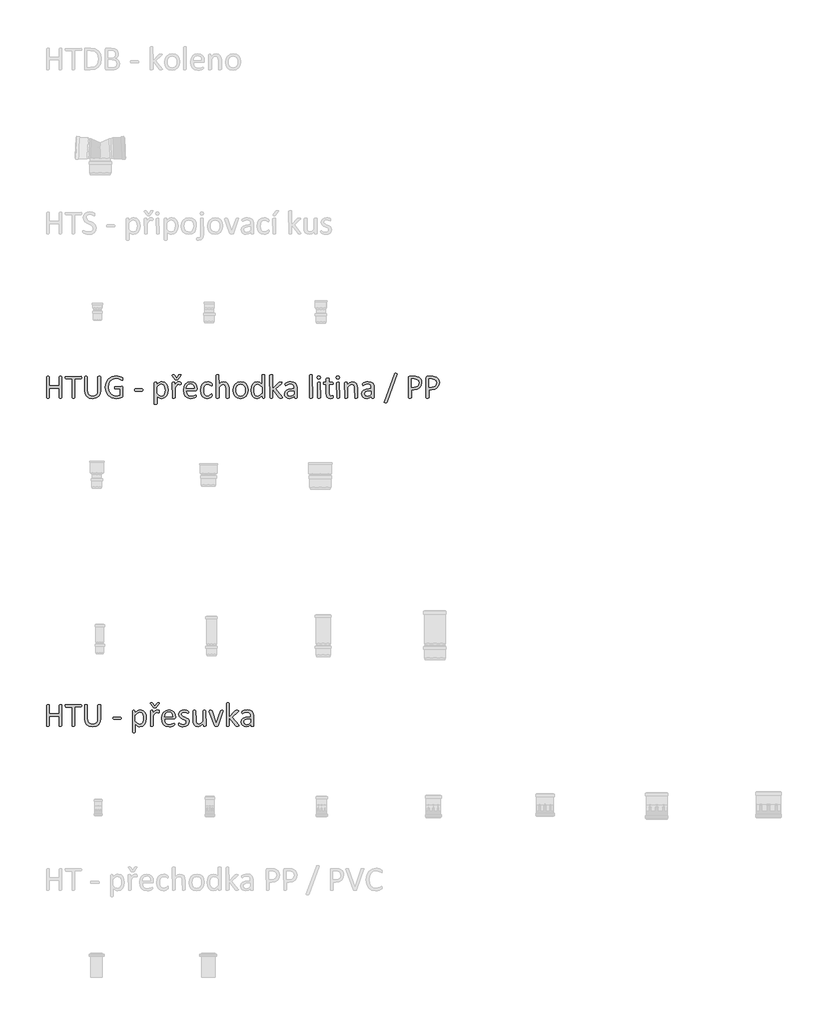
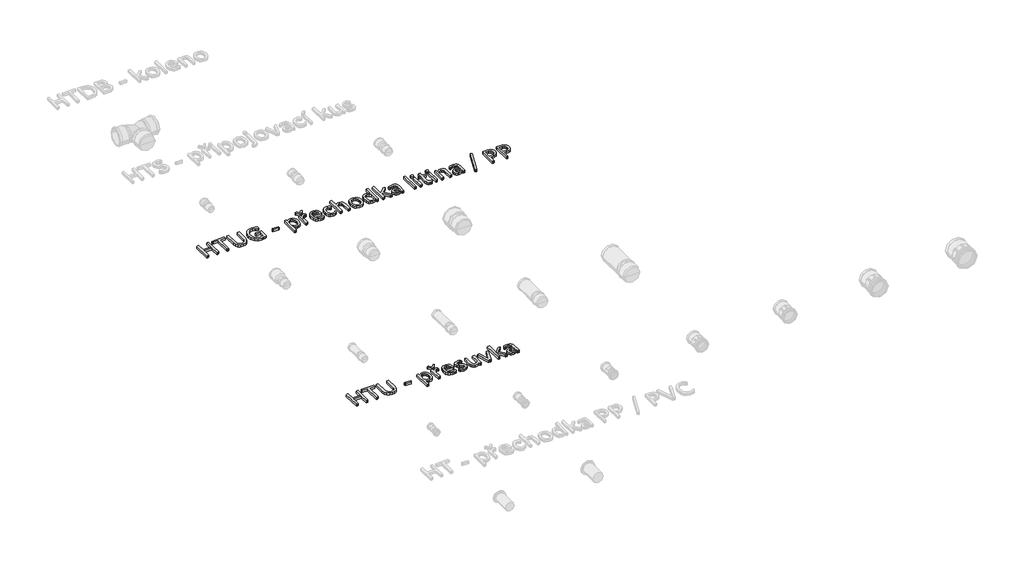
# One storey, part 3 of 26: 2 proxies.
"""IFC4 building model written with IfcOpenShell, lengths in millimetres."""

from ifc_helpers import new_model, si_unit, origin, origin_with_axes, place, context, project, spatial, polyline, outline, extrude, element, save

model = new_model("IFC4")

# Units and contexts
model_context = context("Model", 3, world=origin())
ifc_project = project(units=[si_unit("LENGTHUNIT", "METRE", prefix="MILLI")], contexts=[model_context])

# Site, building, storey
site = spatial("IfcSite", under=ifc_project)
building = spatial("IfcBuilding", under=site)
storey = spatial("IfcBuildingStorey", under=building, Name="Podlaží 1", Elevation=0.0)

# Proxies
placement = place(None, origin())
element("IfcBuildingElementProxy", 1, Name="120mm Arial", ObjectType="120mm Arial", at=placement, inside=storey, context=model_context, shape_type="SweptSolid", body=[
    extrude(outline(polyline([(-20465.0657483, -5771.9493003), (-20469.2817655, -5774.6815689), (-20473.1358927, -5774.9167974), (-20477.1166815, -5774.6815689), (-20479.5775327, -5774.1387341), (-20481.2784151, -5719.3305111), (-20534.5486061, -5719.3305111), (-20534.5486061, -5771.9854893), (-20538.7465288, -5774.6815689), (-20542.6549395, -5774.9167974), (-20546.5271613, -5774.6815689), (-20549.0603905, -5774.1206396), (-20550.7612729, -5657.4473409), (-20546.5271613, -5654.7150723), (-20542.6549395, -5654.4798438), (-20538.7465288, -5654.7150723), (-20536.2494886, -5655.2760016), (-20534.5486061, -5705.4339396), (-20481.2784151, -5705.4339396), (-20481.2784151, -5657.4473409), (-20477.1166815, -5654.7150723), (-20473.1358927, -5654.4798438), (-20469.2817655, -5654.7150723), (-20466.7666308, -5655.2760016), (-20465.0657483, -5771.9493003)])), origin_with_axes(), (0.0, 0.0, 1.0), 15.0),
    extrude(outline(polyline([(-20356.2092711, -5661.5366966), (-20356.390216, -5664.6670441), (-20356.9873343, -5666.8021944), (-20393.2667952, -5668.3764154), (-20393.2667952, -5771.9493003), (-20397.4647179, -5774.6815689), (-20401.3731287, -5774.9167974), (-20405.2453504, -5774.6815689), (-20407.7785796, -5774.1206396), (-20409.4794621, -5668.3764154), (-20443.3885442, -5668.3764154), (-20446.3017578, -5664.6670441), (-20446.5369862, -5661.5366966), (-20446.3017578, -5658.3339711), (-20445.686545, -5656.0902538), (-20359.3939021, -5654.4798438), (-20357.0054288, -5656.0902538), (-20356.390216, -5658.3339711), (-20356.2092711, -5661.5366966)])), origin_with_axes(), (0.0, 0.0, 1.0), 15.0),
    extrude(outline(polyline([(-20249.6688891, -5730.9833654), (-20252.8716146, -5750.5616081), (-20261.9912397, -5765.127676), (-20276.4306461, -5774.1568286), (-20295.8098494, -5777.2328926), (-20313.8681546, -5774.355868), (-20327.8551986, -5765.8333613), (-20336.8481623, -5751.7196558), (-20339.9966043, -5732.177602), (-20339.9966043, -5657.4473409), (-20338.2957218, -5655.2760016), (-20335.8348706, -5654.7150723), (-20331.8540819, -5654.4798438), (-20327.9637656, -5654.7150723), (-20325.4486309, -5655.2760016), (-20323.7839374, -5730.0786407), (-20321.7754486, -5744.662803), (-20315.9671159, -5755.0309482), (-20306.8113019, -5761.2554542), (-20294.7965577, -5763.3363211), (-20282.5646796, -5761.2916432), (-20273.5174325, -5755.1576097), (-20267.8538558, -5745.0427874), (-20265.8815559, -5730.9109874), (-20265.8815559, -5657.4473409), (-20264.1806735, -5655.2760016), (-20261.6655388, -5654.7150723), (-20257.7390335, -5654.4798438), (-20253.8849063, -5654.7150723), (-20251.4240551, -5655.2760016), (-20250.103157, -5656.1626318), (-20249.6688891, -5730.9833654)])), origin_with_axes(), (0.0, 0.0, 1.0), 15.0),
    extrude(outline(polyline([(-20126.9158403, -5670.2582428), (-20127.0967853, -5673.5333463), (-20127.6577146, -5675.903725), (-20128.5986283, -5677.2427176), (-20133.5022362, -5675.831347), (-20140.486711, -5671.8505583), (-20150.9453287, -5667.8697696), (-20165.3847351, -5666.0603201), (-20183.2440008, -5669.7335025), (-20196.6339266, -5679.9026082), (-20205.0478664, -5695.3372118), (-20207.9791744, -5714.7345096), (-20204.776449, -5735.4708), (-20195.8920523, -5750.7244586), (-20182.3392761, -5760.1335956), (-20165.0952231, -5763.3363211), (-20153.7680698, -5762.015423), (-20143.1285072, -5758.0889177), (-20143.1285072, -5723.9627016), (-20170.1616815, -5723.9627016), (-20172.4777768, -5722.2799137), (-20173.2377455, -5717.0506049), (-20173.0568006, -5713.8659739), (-20172.4596823, -5711.6946346), (-20132.4889446, -5710.0661301), (-20130.4804557, -5710.42802), (-20128.6529118, -5711.5317841), (-20127.3682027, -5713.576462), (-20126.9158403, -5716.543959), (-20126.9158403, -5762.1420844), (-20127.7481871, -5766.3219126), (-20131.2766135, -5769.4160711), (-20138.2248992, -5772.3292847), (-20147.0188234, -5775.0072698), (-20156.192732, -5776.6719633), (-20165.3485461, -5777.2328926), (-20190.1922866, -5772.854025), (-20208.6848597, -5760.3869185), (-20220.2110525, -5741.0258097), (-20224.1918413, -5715.8201792), (-20219.9034461, -5689.5831626), (-20207.7982295, -5669.5525575), (-20189.034239, -5656.7235611), (-20164.8057112, -5652.1637486), (-20151.9586203, -5653.3398907), (-20141.2828688, -5656.0902538), (-20133.4298583, -5659.5282077), (-20129.0509907, -5662.5680828), (-20127.3862972, -5665.4270128), (-20126.9158403, -5670.2582428)])), origin_with_axes(), (0.0, 0.0, 1.0), 15.0),
    extrude(outline(polyline([(-20015.7432679, -5729.7167508), (-20016.5937091, -5734.2765633), (-20019.0726548, -5735.5431779), (-20058.6634082, -5735.5431779), (-20061.2147318, -5734.2403744), (-20062.0651731, -5729.7167508), (-20061.2147318, -5725.2293162), (-20058.6634082, -5723.9627016), (-20019.0726548, -5723.9627016), (-20015.9784963, -5727.0025767), (-20015.7432679, -5729.7167508)])), origin_with_axes(), (0.0, 0.0, 1.0), 15.0),
    extrude(outline(polyline([(-19876.7775523, -5729.6443728), (-19879.0936475, -5749.494033), (-19885.8971773, -5764.4400852), (-19897.0252913, -5773.9035057), (-19912.2065719, -5777.2328926), (-19918.9196293, -5776.4910184), (-19924.9631904, -5774.1387341), (-19930.8258065, -5770.1036619), (-19936.996029, -5764.3858017), (-19936.996029, -5806.6545402), (-19938.678817, -5808.916352), (-19941.1215737, -5809.4772813), (-19945.1385514, -5809.6582263), (-19949.0831512, -5809.4772813), (-19951.5801914, -5808.916352), (-19952.8649005, -5807.9754383), (-19952.8649005, -5689.8002966), (-19949.48123, -5687.0499334), (-19946.1156541, -5686.9051775), (-19942.7319837, -5687.0318389), (-19940.5244554, -5687.5022958), (-19938.9502344, -5700.1503473), (-19931.7667202, -5693.3106284), (-19924.8003399, -5688.4793985), (-19917.5987312, -5685.5661849), (-19909.8180987, -5684.5890822), (-19894.6187236, -5688.1536976), (-19884.3772398, -5697.8885355), (-19878.6050962, -5712.2555639), (-19876.7775523, -5729.6443728)]), holes=[polyline([(-19892.9902191, -5731.4176333), (-19893.9311328, -5719.1495662), (-19897.1700472, -5708.6185705), (-19903.3402698, -5701.2541114), (-19912.9665407, -5698.4856538), (-19918.6482119, -5699.336095), (-19924.3117886, -5702.0502691), (-19930.3372552, -5706.9357826), (-19936.996029, -5714.3726197), (-19936.996029, -5747.919812), (-19925.3974582, -5759.3736268), (-19913.8712654, -5763.3363211), (-19904.2811835, -5760.5678634), (-19897.8033545, -5753.2034043), (-19894.1663612, -5742.9076371), (-19892.9902191, -5731.4176333)])]), origin_with_axes(), (0.0, 0.0, 1.0), 15.0),
    extrude(outline(polyline([(-19804.9785992, -5693.8534633), (-19805.0690717, -5697.1466612), (-19805.4309616, -5699.2818115), (-19808.9774824, -5700.4941426), (-19811.3116722, -5699.6617959), (-19814.2248857, -5698.8656382), (-19817.7171231, -5698.4856538), (-19822.1321797, -5699.480851), (-19826.6738978, -5702.7378599), (-19831.6498837, -5708.745232), (-19837.4039328, -5717.9191406), (-19837.4039328, -5772.0940563), (-19841.5294775, -5774.7358524), (-19845.5464552, -5774.9167974), (-19849.491055, -5774.7358524), (-19851.9880952, -5774.1930176), (-19853.6165997, -5689.7279186), (-19849.8891339, -5687.0499334), (-19846.234046, -5686.9051775), (-19842.6513362, -5687.0499334), (-19840.4438079, -5687.5927683), (-19838.9600593, -5701.7426627), (-19832.6993643, -5693.1658725), (-19827.1443546, -5687.9365637), (-19821.9693293, -5685.312862), (-19816.7762094, -5684.5890822), (-19814.1344133, -5684.7157437), (-19811.0221603, -5685.204295), (-19808.0908522, -5686.0185473), (-19806.2452138, -5686.9051775), (-19805.0147882, -5690.5964543), (-19804.9785992, -5693.8534633)])), origin_with_axes(), (0.0, 0.0, 1.0), 15.0),
    extrude(outline(polyline([(-19817.7171231, -5647.8934479), (-19816.5590755, -5646.6087389), (-19813.2658776, -5645.3421243), (-19810.3707585, -5645.2154628), (-19806.5890092, -5645.5230692), (-19804.7795598, -5646.4096994), (-19806.1366468, -5650.2095432), (-19821.0826991, -5670.6925107), (-19822.2588412, -5671.8505583), (-19823.8511567, -5672.5200546), (-19826.1672519, -5672.8819445), (-19829.5147334, -5673.0086059), (-19832.6631754, -5672.8819445), (-19834.8887981, -5672.4838656), (-19836.4268302, -5671.7600858), (-19852.458552, -5650.2095432), (-19853.8518281, -5647.9839204), (-19851.9519062, -5645.5230692), (-19848.1882514, -5645.2154628), (-19845.0759984, -5645.3421243), (-19843.194171, -5645.7944866), (-19840.8780757, -5647.8934479), (-19829.2975994, -5664.0699258), (-19817.7171231, -5647.8934479)])), origin_with_axes(), (0.0, 0.0, 1.0), 15.0),
    extrude(outline(polyline([(-19714.6508841, -5726.6044978), (-19716.442239, -5731.7071452), (-19720.5496892, -5733.2270827), (-19774.8693608, -5733.2270827), (-19773.5122738, -5746.6170084), (-19769.0067447, -5756.8223031), (-19760.7918443, -5763.3725101), (-19748.4152103, -5765.6524163), (-19738.1375376, -5764.5848412), (-19730.3207161, -5762.1782734), (-19724.9104623, -5759.7717057), (-19721.7077368, -5758.7041305), (-19719.409736, -5761.5992496), (-19719.2830746, -5764.2410458), (-19719.3735471, -5766.1771567), (-19723.8247926, -5771.5693159), (-19730.1759601, -5774.0663561), (-19739.2232072, -5776.2557899), (-19750.1884707, -5777.2328926), (-19767.8667916, -5774.3377735), (-19780.62341, -5765.7247943), (-19788.4402315, -5751.3758604), (-19791.0820276, -5731.3452553), (-19788.31357, -5711.8032015), (-19780.3338981, -5697.1104722), (-19767.7401301, -5687.8279967), (-19751.2017624, -5684.5890822), (-19734.5548277, -5687.7194297), (-19723.2457688, -5696.151464), (-19716.7317509, -5708.5823816), (-19714.6508841, -5723.8179457), (-19714.6508841, -5726.6044978)]), holes=[polyline([(-19730.8635509, -5721.6466064), (-19732.0351694, -5711.0206147), (-19736.0566707, -5702.9549939), (-19742.8285352, -5697.8659174), (-19752.251243, -5696.1695585), (-19761.8956085, -5698.2685199), (-19768.8257998, -5703.8597186), (-19773.1503839, -5711.9841465), (-19774.8693608, -5721.6466064), (-19730.8635509, -5721.6466064)])]), origin_with_axes(), (0.0, 0.0, 1.0), 15.0),
    extrude(outline(polyline([(-19631.2714547, -5758.2698627), (-19631.3619272, -5760.8030919), (-19631.6876281, -5762.6125413), (-19633.6780224, -5766.2495346), (-19637.5683387, -5769.777961), (-19643.7385612, -5773.5235213), (-19651.1753983, -5776.2015065), (-19659.4988657, -5777.2328926), (-19675.2048867, -5774.2292066), (-19686.6587015, -5765.4533769), (-19693.6974598, -5751.3034824), (-19696.122122, -5731.9604681), (-19693.1546249, -5710.5184924), (-19685.030197, -5695.8438576), (-19672.8887914, -5687.3575398), (-19657.7617942, -5684.5890822), (-19650.1259177, -5685.4033345), (-19643.3223879, -5687.5384848), (-19637.7854726, -5690.5783598), (-19634.2751407, -5693.5277624), (-19632.7732977, -5695.4638733), (-19632.0857069, -5697.0019053), (-19631.7238171, -5698.9018272), (-19631.6333446, -5701.5617178), (-19632.4475968, -5706.3748533), (-19634.4198967, -5707.7500348), (-19637.5502442, -5706.3024753), (-19642.0195843, -5703.1178443), (-19648.5878857, -5699.9332133), (-19657.6532273, -5698.4856538), (-19667.1754549, -5700.5846151), (-19674.1735005, -5706.8814991), (-19678.4754665, -5717.1772663), (-19679.9094552, -5731.2728773), (-19678.4257066, -5745.2780158), (-19674.046839, -5755.3385546), (-19666.9357028, -5761.3640212), (-19657.2913374, -5763.3363211), (-19648.2621848, -5761.5087771), (-19641.5310329, -5757.4917994), (-19636.735992, -5753.5291052), (-19633.6961169, -5751.7558448), (-19631.3981162, -5755.3204601), (-19631.2714547, -5758.2698627)])), origin_with_axes(), (0.0, 0.0, 1.0), 15.0),
    extrude(outline(polyline([(-19538.6276443, -5772.0578673), (-19542.753189, -5774.7358524), (-19546.6977887, -5774.9167974), (-19550.7147664, -5774.7358524), (-19553.1575232, -5774.1930176), (-19554.8403111, -5723.7093787), (-19555.9078863, -5712.3460364), (-19559.0020448, -5704.9091992), (-19564.2675426, -5700.1322528), (-19571.7405687, -5698.4856538), (-19582.7239267, -5702.520726), (-19594.2139305, -5714.3726197), (-19594.2139305, -5772.0578673), (-19598.3394752, -5774.7358524), (-19602.3564529, -5774.9167974), (-19606.3010527, -5774.7358524), (-19608.7980929, -5774.1749231), (-19610.4265974, -5648.1829599), (-19606.3010527, -5645.3964077), (-19602.3564529, -5645.2154628), (-19598.3394752, -5645.3964077), (-19595.8967185, -5645.9573371), (-19594.6120094, -5646.8982508), (-19594.2139305, -5698.2685199), (-19581.1858947, -5687.9546581), (-19567.9769139, -5684.5890822), (-19554.1527203, -5687.4118233), (-19545.0873787, -5694.9572274), (-19540.1294873, -5706.0129634), (-19538.6276443, -5721.3209055), (-19538.6276443, -5772.0578673)])), origin_with_axes(), (0.0, 0.0, 1.0), 15.0),
    extrude(outline(polyline([(-19432.0872623, -5730.0062627), (-19434.7652475, -5748.9873871), (-19442.7811084, -5763.9334394), (-19456.1348452, -5773.7225607), (-19474.7178907, -5777.2328926), (-19492.63144, -5774.1387341), (-19505.3699639, -5765.1457705), (-19512.9696515, -5750.8149311), (-19515.4666917, -5731.7071452), (-19512.8248955, -5712.7260207), (-19504.8633181, -5697.798063), (-19491.5638648, -5688.0632251), (-19472.9446303, -5684.5890822), (-19455.0129865, -5687.6832407), (-19442.2744626, -5696.6762044), (-19434.638586, -5711.0070438), (-19432.0872623, -5730.0062627)]), holes=[polyline([(-19448.2999292, -5731.0919324), (-19449.5484493, -5718.5162589), (-19453.6558994, -5708.1300192), (-19461.3822485, -5701.0731665), (-19473.5598431, -5698.4856538), (-19485.1222249, -5700.8560325), (-19493.0838024, -5707.5509954), (-19497.7340874, -5717.7924791), (-19499.2540249, -5730.7300425), (-19498.0055048, -5743.3780939), (-19493.8618656, -5753.7281446), (-19486.0812331, -5760.7488084), (-19473.921733, -5763.3363211), (-19462.3955402, -5760.9659423), (-19454.3796792, -5754.3252629), (-19449.7655832, -5744.1199682), (-19448.2999292, -5731.0919324)])]), origin_with_axes(), (0.0, 0.0, 1.0), 15.0),
    extrude(outline(polyline([(-19339.7691528, -5772.0216783), (-19343.1528233, -5774.7358524), (-19346.4641157, -5774.9167974), (-19349.9020696, -5774.7358524), (-19352.1457869, -5774.2653956), (-19353.8104804, -5761.9611395), (-19367.2546896, -5773.1978204), (-19382.5083482, -5777.2328926), (-19397.9248573, -5773.6320883), (-19408.2568135, -5763.8972504), (-19414.0470516, -5749.457844), (-19415.8745955, -5731.9966571), (-19413.5946892, -5712.3641309), (-19406.8635374, -5697.4180786), (-19395.8258959, -5687.9184692), (-19380.5903318, -5684.5890822), (-19367.4356345, -5687.8279967), (-19355.6561188, -5697.3276062), (-19355.6561188, -5648.2191488), (-19353.9914253, -5646.0116206), (-19351.4943851, -5645.4506912), (-19347.6583523, -5645.2154628), (-19343.6413746, -5645.4506912), (-19341.1986179, -5646.0116206), (-19339.8777198, -5646.9344398), (-19339.7691528, -5772.0216783)]), holes=[polyline([(-19355.6561188, -5713.8297849), (-19367.272784, -5702.412159), (-19378.9618273, -5698.4856538), (-19388.5519093, -5701.2360169), (-19394.9573602, -5708.4919091), (-19398.5400701, -5718.6972038), (-19399.6619287, -5730.2595856), (-19398.721015, -5742.4914637), (-19395.4459115, -5753.0948373), (-19389.2575945, -5760.5316745), (-19379.5770401, -5763.3363211), (-19373.8953689, -5762.5220688), (-19368.2860757, -5759.8259892), (-19362.2967981, -5754.9404757), (-19355.6561188, -5747.5217331), (-19355.6561188, -5713.8297849)])]), origin_with_axes(), (0.0, 0.0, 1.0), 15.0),
    extrude(outline(polyline([(-19242.167451, -5771.9854893), (-19246.2387122, -5774.7358524), (-19250.2375954, -5774.9167974), (-19254.3631401, -5774.7720414), (-19257.1135032, -5774.3196791), (-19258.9229527, -5773.4149543), (-19260.1895673, -5771.9854893), (-19295.437642, -5726.4235529), (-19295.437642, -5772.0940563), (-19299.5631867, -5774.7358524), (-19303.5801644, -5774.9167974), (-19307.5247641, -5774.7358524), (-19310.0218043, -5774.1749231), (-19311.6503088, -5648.1829599), (-19307.5247641, -5645.3964077), (-19303.5801644, -5645.2154628), (-19299.5631867, -5645.3964077), (-19297.12043, -5645.9573371), (-19295.8357209, -5646.8982508), (-19295.437642, -5724.3245915), (-19263.2294423, -5690.0898085), (-19261.6190323, -5688.5879654), (-19259.592449, -5687.5927683), (-19256.8058968, -5687.0499334), (-19252.9155806, -5686.9051775), (-19248.9347919, -5687.0499334), (-19246.3472792, -5687.5022958), (-19244.9178141, -5688.316548), (-19245.1168536, -5691.8449744), (-19247.2339094, -5694.3962981), (-19279.2249752, -5724.2160246), (-19244.4473573, -5767.6789997), (-19242.6921914, -5770.1941344), (-19242.167451, -5771.9854893)])), origin_with_axes(), (0.0, 0.0, 1.0), 15.0),
    extrude(outline(polyline([(-19161.1041169, -5772.1302453), (-19161.9002747, -5773.8130332), (-19164.071614, -5774.64538), (-19168.1247807, -5774.9167974), (-19172.2322309, -5774.64538), (-19174.4578537, -5773.8130332), (-19175.1454444, -5772.1302453), (-19175.1454444, -5763.8067779), (-19187.3411335, -5773.4330488), (-19201.599595, -5777.2328926), (-19213.5600557, -5775.5139157), (-19222.6615863, -5770.5379298), (-19228.5061079, -5762.5401633), (-19230.5869747, -5751.7558448), (-19227.7099501, -5739.4877777), (-19219.4588608, -5730.8386094), (-19206.3041635, -5725.6816786), (-19188.7886931, -5723.9627016), (-19177.3167837, -5723.9627016), (-19177.3167837, -5717.0506049), (-19178.3300754, -5708.0033577), (-19181.5870844, -5701.4531508), (-19187.395417, -5697.5085511), (-19196.1712467, -5696.1695585), (-19206.213691, -5697.6171181), (-19213.9943235, -5700.801749), (-19219.5855222, -5703.98638), (-19222.9149092, -5705.4339396), (-19225.7738393, -5701.9055132), (-19225.9547842, -5699.2456225), (-19225.6290833, -5695.4457788), (-19224.0367678, -5692.7858881), (-19219.6940892, -5690.071714), (-19212.6010475, -5687.3937288), (-19203.8252178, -5685.38524), (-19194.2170413, -5684.5890822), (-19178.8367213, -5686.6337601), (-19168.577143, -5692.6049432), (-19162.8773774, -5702.3578755), (-19161.1041169, -5715.9649352), (-19161.1041169, -5772.1302453)]), holes=[polyline([(-19177.3167837, -5735.5431779), (-19190.2000636, -5735.5431779), (-19200.9481932, -5736.6107531), (-19208.5297863, -5739.7591951), (-19212.9629374, -5744.7532755), (-19214.3743079, -5751.4663329), (-19210.3211412, -5761.8163836), (-19198.9577988, -5765.6524163), (-19187.9563463, -5762.5944468), (-19177.3167837, -5753.2395933), (-19177.3167837, -5735.5431779)])]), origin_with_axes(), (0.0, 0.0, 1.0), 15.0),
    extrude(outline(polyline([(-19075.4085923, -5772.0578673), (-19079.534137, -5774.7358524), (-19083.5511147, -5774.9167974), (-19087.4957144, -5774.7358524), (-19089.9927546, -5774.1749231), (-19091.6212591, -5648.1829599), (-19087.4957144, -5645.3964077), (-19083.5511147, -5645.2154628), (-19079.534137, -5645.3964077), (-19077.0913803, -5645.9573371), (-19075.4085923, -5772.0578673)])), origin_with_axes(), (0.0, 0.0, 1.0), 15.0),
    extrude(outline(polyline([(-19031.4027824, -5772.0940563), (-19035.528327, -5774.7358524), (-19039.5453048, -5774.9167974), (-19043.4899045, -5774.7358524), (-19045.9869447, -5774.1930176), (-19047.6154492, -5689.7279186), (-19043.4899045, -5687.0861224), (-19039.5453048, -5686.9051775), (-19035.528327, -5687.0861224), (-19033.0855703, -5687.6289573), (-19031.4027824, -5772.0940563)])), origin_with_axes(), (0.0, 0.0, 1.0), 15.0),
    extrude(outline(polyline([(-19031.4027824, -5661.3195627), (-19033.3931767, -5668.7202108), (-19040.7757304, -5670.6925107), (-19047.9773391, -5668.7744943), (-19049.9315444, -5661.5366966), (-19047.9411501, -5654.1360485), (-19040.5585964, -5652.1637486), (-19033.3569877, -5654.081765), (-19031.4027824, -5661.3195627)])), origin_with_axes(), (0.0, 0.0, 1.0), 15.0),
    extrude(outline(polyline([(-18959.6038293, -5766.59333), (-18959.9657192, -5771.1169536), (-18961.0694833, -5773.5778048), (-18963.2770116, -5775.0615533), (-18966.6244931, -5776.2015065), (-18970.6233763, -5776.9433807), (-18974.8393934, -5777.2328926), (-18985.8589404, -5775.4777267), (-18993.3681555, -5770.1760399), (-18997.6384561, -5761.1830763), (-18998.9774487, -5748.3178909), (-18998.9774487, -5698.4856538), (-19009.9789012, -5698.4856538), (-19012.095957, -5697.1285667), (-19012.8740203, -5692.7316046), (-19012.6568863, -5690.035525), (-19012.095957, -5688.2079811), (-18998.9774487, -5686.9051775), (-18998.9774487, -5666.7479109), (-18997.3489442, -5664.5403826), (-18994.851904, -5663.9251698), (-18990.9073043, -5663.7442249), (-18986.8903266, -5663.9251698), (-18984.4475699, -5664.5403826), (-18983.1628608, -5665.5355798), (-18982.7647819, -5686.9051775), (-18962.4989484, -5686.9051775), (-18959.7847742, -5690.035525), (-18959.6038293, -5692.7316046), (-18960.399987, -5697.1285667), (-18962.4989484, -5698.4856538), (-18982.7647819, -5698.4856538), (-18982.7647819, -5745.6760947), (-18980.3582142, -5758.866981), (-18971.7271404, -5763.3363211), (-18968.1263361, -5762.9201477), (-18965.3216895, -5762.051612), (-18963.2046336, -5761.1649818), (-18961.6304127, -5760.7307139), (-18959.7847742, -5763.662022), (-18959.6038293, -5766.59333)])), origin_with_axes(), (0.0, 0.0, 1.0), 15.0),
    extrude(outline(polyline([(-18924.8624004, -5772.0940563), (-18928.9879451, -5774.7358524), (-18933.0049228, -5774.9167974), (-18936.9495225, -5774.7358524), (-18939.4465627, -5774.1930176), (-18941.0750672, -5689.7279186), (-18936.9495225, -5687.0861224), (-18933.0049228, -5686.9051775), (-18928.9879451, -5687.0861224), (-18926.5451884, -5687.6289573), (-18924.8624004, -5772.0940563)])), origin_with_axes(), (0.0, 0.0, 1.0), 15.0),
    extrude(outline(polyline([(-18924.8624004, -5661.3195627), (-18926.8527948, -5668.7202108), (-18934.2353484, -5670.6925107), (-18941.4369571, -5668.7744943), (-18943.3911625, -5661.5366966), (-18941.4007681, -5654.1360485), (-18934.0182145, -5652.1637486), (-18926.8166058, -5654.081765), (-18924.8624004, -5661.3195627)])), origin_with_axes(), (0.0, 0.0, 1.0), 15.0),
    extrude(outline(polyline([(-18825.2703042, -5772.0578673), (-18829.3958489, -5774.7358524), (-18833.3404486, -5774.9167974), (-18837.3574264, -5774.7358524), (-18839.8001831, -5774.1930176), (-18841.482971, -5723.7093787), (-18842.5505462, -5712.3460364), (-18845.6447047, -5704.9091992), (-18850.9102025, -5700.1322528), (-18858.3832286, -5698.4856538), (-18869.3665866, -5702.520726), (-18880.8565905, -5714.3726197), (-18880.8565905, -5772.0578673), (-18884.9821351, -5774.7358524), (-18888.9991129, -5774.9167974), (-18892.9437126, -5774.7358524), (-18895.4407528, -5774.1930176), (-18897.0692573, -5689.7279186), (-18893.3417915, -5687.0499334), (-18889.6867036, -5686.9051775), (-18886.1039938, -5687.0499334), (-18883.8964655, -5687.5927683), (-18882.412717, -5700.6208041), (-18868.5704289, -5688.4432095), (-18854.6557628, -5684.5890822), (-18840.8315692, -5687.4118233), (-18831.7481331, -5694.9572274), (-18826.7721472, -5706.0129634), (-18825.2703042, -5721.2485275), (-18825.2703042, -5772.0578673)])), origin_with_axes(), (0.0, 0.0, 1.0), 15.0),
    extrude(outline(polyline([(-18732.6264938, -5772.1302453), (-18733.4226516, -5773.8130332), (-18735.5939909, -5774.64538), (-18739.6471576, -5774.9167974), (-18743.7546078, -5774.64538), (-18745.9802306, -5773.8130332), (-18746.6678213, -5772.1302453), (-18746.6678213, -5763.8067779), (-18758.8635104, -5773.4330488), (-18773.1219719, -5777.2328926), (-18785.0824326, -5775.5139157), (-18794.1839632, -5770.5379298), (-18800.0284848, -5762.5401633), (-18802.1093516, -5751.7558448), (-18799.232327, -5739.4877777), (-18790.9812377, -5730.8386094), (-18777.8265404, -5725.6816786), (-18760.31107, -5723.9627016), (-18748.8391606, -5723.9627016), (-18748.8391606, -5717.0506049), (-18749.8524523, -5708.0033577), (-18753.1094613, -5701.4531508), (-18758.9177939, -5697.5085511), (-18767.6936236, -5696.1695585), (-18777.7360679, -5697.6171181), (-18785.5167004, -5700.801749), (-18791.1078991, -5703.98638), (-18794.4372861, -5705.4339396), (-18797.2962162, -5701.9055132), (-18797.4771611, -5699.2456225), (-18797.1514602, -5695.4457788), (-18795.5591447, -5692.7858881), (-18791.2164661, -5690.071714), (-18784.1234244, -5687.3937288), (-18775.3475947, -5685.38524), (-18765.7394182, -5684.5890822), (-18750.3590982, -5686.6337601), (-18740.0995199, -5692.6049432), (-18734.3997543, -5702.3578755), (-18732.6264938, -5715.9649352), (-18732.6264938, -5772.1302453)]), holes=[polyline([(-18748.8391606, -5735.5431779), (-18761.7224405, -5735.5431779), (-18772.4705701, -5736.6107531), (-18780.0521632, -5739.7591951), (-18784.4853142, -5744.7532755), (-18785.8966848, -5751.4663329), (-18781.8435181, -5761.8163836), (-18770.4801757, -5765.6524163), (-18759.4787232, -5762.5944468), (-18748.8391606, -5753.2395933), (-18748.8391606, -5735.5431779)])]), origin_with_axes(), (0.0, 0.0, 1.0), 15.0),
    extrude(outline(polyline([(-18661.4427536, -5796.7025684), (-18662.4379507, -5798.5843958), (-18663.9578883, -5799.651971), (-18666.2377945, -5800.2129003), (-18669.512898, -5800.3938452), (-18673.3670253, -5800.0681443), (-18675.737404, -5799.1453251), (-18676.7506957, -5797.6615766), (-18676.3888058, -5795.5807098), (-18620.2958737, -5641.9584538), (-18619.3006765, -5640.0766264), (-18617.816928, -5638.9728623), (-18615.5551162, -5638.411933), (-18612.2257293, -5638.267177), (-18608.4258855, -5638.5928779), (-18606.1097902, -5639.4795081), (-18605.0784041, -5640.9632567), (-18605.3498215, -5643.0803125), (-18661.4427536, -5796.7025684)])), origin_with_axes(), (0.0, 0.0, 1.0), 15.0),
    extrude(outline(polyline([(-18468.5916342, -5689.5107847), (-18471.5591312, -5705.6872625), (-18480.0635435, -5717.9734241), (-18493.6344142, -5725.8264345), (-18512.814578, -5728.5948922), (-18526.4940157, -5728.5948922), (-18526.4940157, -5771.9493003), (-18528.2310871, -5774.1206396), (-18530.6919383, -5774.6815689), (-18534.6003491, -5774.9167974), (-18538.5087598, -5774.6815689), (-18541.0058, -5774.1206396), (-18542.7066825, -5661.3195627), (-18540.7524771, -5656.0540648), (-18536.3736095, -5654.4798438), (-18510.5346718, -5654.4798438), (-18503.0435512, -5654.8055447), (-18494.5572334, -5656.1988208), (-18484.5690726, -5660.161515), (-18475.9560933, -5667.3088402), (-18470.5096506, -5677.1522451), (-18468.5916342, -5689.5107847)]), holes=[polyline([(-18484.804301, -5690.7773992), (-18487.5908531, -5678.9978835), (-18494.4848554, -5671.9591253), (-18502.9711732, -5669.0097227), (-18511.5117745, -5668.3764154), (-18526.4940157, -5668.3764154), (-18526.4940157, -5714.6983206), (-18511.8736643, -5714.6983206), (-18499.6598808, -5712.9069657), (-18491.4992639, -5707.9490743), (-18486.5051835, -5700.3674812), (-18484.804301, -5690.7773992)])]), origin_with_axes(), (0.0, 0.0, 1.0), 15.0),
    extrude(outline(polyline([(-18371.3156333, -5689.5107847), (-18374.2831303, -5705.6872625), (-18382.7875426, -5717.9734241), (-18396.3584133, -5725.8264345), (-18415.5385771, -5728.5948922), (-18429.2180148, -5728.5948922), (-18429.2180148, -5771.9493003), (-18430.9550862, -5774.1206396), (-18433.4159374, -5774.6815689), (-18437.3243482, -5774.9167974), (-18441.2327589, -5774.6815689), (-18443.7297991, -5774.1206396), (-18445.4306816, -5661.3195627), (-18443.4764762, -5656.0540648), (-18439.0976086, -5654.4798438), (-18413.2586709, -5654.4798438), (-18405.7675502, -5654.8055447), (-18397.2812325, -5656.1988208), (-18387.2930717, -5660.161515), (-18378.6800924, -5667.3088402), (-18373.2336496, -5677.1522451), (-18371.3156333, -5689.5107847)]), holes=[polyline([(-18387.5283001, -5690.7773992), (-18390.3148522, -5678.9978835), (-18397.2088545, -5671.9591253), (-18405.6951723, -5669.0097227), (-18414.2357735, -5668.3764154), (-18429.2180148, -5668.3764154), (-18429.2180148, -5714.6983206), (-18414.5976634, -5714.6983206), (-18402.3838798, -5712.9069657), (-18394.2232629, -5707.9490743), (-18389.2291825, -5700.3674812), (-18387.5283001, -5690.7773992)])]), origin_with_axes(), (0.0, 0.0, 1.0), 15.0),
])
element("IfcBuildingElementProxy", 2, Name="120mm Arial", ObjectType="120mm Arial", at=placement, inside=storey, context=model_context, shape_type="SweptSolid", body=[
    extrude(outline(polyline([(-20465.0657483, -7591.9493003), (-20469.2817655, -7594.6815689), (-20473.1358927, -7594.9167974), (-20477.1166815, -7594.6815689), (-20479.5775327, -7594.1387341), (-20481.2784151, -7539.3305111), (-20534.5486061, -7539.3305111), (-20534.5486061, -7591.9854893), (-20538.7465288, -7594.6815689), (-20542.6549395, -7594.9167974), (-20546.5271613, -7594.6815689), (-20549.0603905, -7594.1206396), (-20550.7612729, -7477.4473409), (-20546.5271613, -7474.7150723), (-20542.6549395, -7474.4798438), (-20538.7465288, -7474.7150723), (-20536.2494886, -7475.2760016), (-20534.5486061, -7525.4339396), (-20481.2784151, -7525.4339396), (-20481.2784151, -7477.4473409), (-20477.1166815, -7474.7150723), (-20473.1358927, -7474.4798438), (-20469.2817655, -7474.7150723), (-20466.7666308, -7475.2760016), (-20465.0657483, -7591.9493003)])), origin_with_axes(), (0.0, 0.0, 1.0), 15.0),
    extrude(outline(polyline([(-20356.2092711, -7481.5366966), (-20356.390216, -7484.6670441), (-20356.9873343, -7486.8021944), (-20393.2667952, -7488.3764154), (-20393.2667952, -7591.9493003), (-20397.4647179, -7594.6815689), (-20401.3731287, -7594.9167974), (-20405.2453504, -7594.6815689), (-20407.7785796, -7594.1206396), (-20409.4794621, -7488.3764154), (-20443.3885442, -7488.3764154), (-20446.3017578, -7484.6670441), (-20446.5369862, -7481.5366966), (-20446.3017578, -7478.3339711), (-20445.686545, -7476.0902538), (-20359.3939021, -7474.4798438), (-20357.0054288, -7476.0902538), (-20356.390216, -7478.3339711), (-20356.2092711, -7481.5366966)])), origin_with_axes(), (0.0, 0.0, 1.0), 15.0),
    extrude(outline(polyline([(-20249.6688891, -7550.9833654), (-20252.8716146, -7570.5616081), (-20261.9912397, -7585.127676), (-20276.4306461, -7594.1568286), (-20295.8098494, -7597.2328926), (-20313.8681546, -7594.355868), (-20327.8551986, -7585.8333613), (-20336.8481623, -7571.7196558), (-20339.9966043, -7552.177602), (-20339.9966043, -7477.4473409), (-20338.2957218, -7475.2760016), (-20335.8348706, -7474.7150723), (-20331.8540819, -7474.4798438), (-20327.9637656, -7474.7150723), (-20325.4486309, -7475.2760016), (-20323.7839374, -7550.0786407), (-20321.7754486, -7564.662803), (-20315.9671159, -7575.0309482), (-20306.8113019, -7581.2554542), (-20294.7965577, -7583.3363211), (-20282.5646796, -7581.2916432), (-20273.5174325, -7575.1576097), (-20267.8538558, -7565.0427874), (-20265.8815559, -7550.9109874), (-20265.8815559, -7477.4473409), (-20264.1806735, -7475.2760016), (-20261.6655388, -7474.7150723), (-20257.7390335, -7474.4798438), (-20253.8849063, -7474.7150723), (-20251.4240551, -7475.2760016), (-20250.103157, -7476.1626318), (-20249.6688891, -7550.9833654)])), origin_with_axes(), (0.0, 0.0, 1.0), 15.0),
    extrude(outline(polyline([(-20136.1802214, -7549.7167508), (-20137.0306626, -7554.2765633), (-20139.5096083, -7555.5431779), (-20179.1003617, -7555.5431779), (-20181.6516854, -7554.2403744), (-20182.5021266, -7549.7167508), (-20181.6516854, -7545.2293162), (-20179.1003617, -7543.9627016), (-20139.5096083, -7543.9627016), (-20136.4154498, -7547.0025767), (-20136.1802214, -7549.7167508)])), origin_with_axes(), (0.0, 0.0, 1.0), 15.0),
    extrude(outline(polyline([(-19997.2145058, -7549.6443728), (-19999.530601, -7569.494033), (-20006.3341309, -7584.4400852), (-20017.4622448, -7593.9035057), (-20032.6435255, -7597.2328926), (-20039.3565828, -7596.4910184), (-20045.4001439, -7594.1387341), (-20051.26276, -7590.1036619), (-20057.4329825, -7584.3858017), (-20057.4329825, -7626.6545402), (-20059.1157705, -7628.916352), (-20061.5585272, -7629.4772813), (-20065.5755049, -7629.6582263), (-20069.5201047, -7629.4772813), (-20072.0171449, -7628.916352), (-20073.301854, -7627.9754383), (-20073.301854, -7509.8002966), (-20069.9181836, -7507.0499334), (-20066.5526076, -7506.9051775), (-20063.1689372, -7507.0318389), (-20060.9614089, -7507.5022958), (-20059.3871879, -7520.1503473), (-20052.2036737, -7513.3106284), (-20045.2372934, -7508.4793985), (-20038.0356847, -7505.5661849), (-20030.2550522, -7504.5890822), (-20015.0556771, -7508.1536976), (-20004.8141934, -7517.8885355), (-19999.0420497, -7532.2555639), (-19997.2145058, -7549.6443728)]), holes=[polyline([(-20013.4271726, -7551.4176333), (-20014.3680863, -7539.1495662), (-20017.6070008, -7528.6185705), (-20023.7772233, -7521.2541114), (-20033.4034942, -7518.4856538), (-20039.0851654, -7519.336095), (-20044.7487421, -7522.0502691), (-20050.7742087, -7526.9357826), (-20057.4329825, -7534.3726197), (-20057.4329825, -7567.919812), (-20045.8344117, -7579.3736268), (-20034.3082189, -7583.3363211), (-20024.718137, -7580.5678634), (-20018.2403081, -7573.2034043), (-20014.6033147, -7562.9076371), (-20013.4271726, -7551.4176333)])]), origin_with_axes(), (0.0, 0.0, 1.0), 15.0),
    extrude(outline(polyline([(-19938.1540767, -7467.8934479), (-19936.996029, -7466.6087389), (-19933.7028311, -7465.3421243), (-19930.807712, -7465.2154628), (-19927.0259627, -7465.5230692), (-19925.2165133, -7466.4096994), (-19926.5736004, -7470.2095432), (-19941.5196526, -7490.6925107), (-19942.6957947, -7491.8505583), (-19944.2881102, -7492.5200546), (-19946.6042055, -7492.8819445), (-19949.9516869, -7493.0086059), (-19953.1001289, -7492.8819445), (-19955.3257517, -7492.4838656), (-19956.8637837, -7491.7600858), (-19972.8955056, -7470.2095432), (-19974.2887816, -7467.9839204), (-19972.3888597, -7465.5230692), (-19968.6252049, -7465.2154628), (-19965.5129519, -7465.3421243), (-19963.6311245, -7465.7944866), (-19961.3150293, -7467.8934479), (-19949.734553, -7484.0699258), (-19938.1540767, -7467.8934479)])), origin_with_axes(), (0.0, 0.0, 1.0), 15.0),
    extrude(outline(polyline([(-19925.4155527, -7513.8534633), (-19925.5060252, -7517.1466612), (-19925.8679151, -7519.2818115), (-19929.4144359, -7520.4941426), (-19931.7486257, -7519.6617959), (-19934.6618393, -7518.8656382), (-19938.1540767, -7518.4856538), (-19942.5691332, -7519.480851), (-19947.1108513, -7522.7378599), (-19952.0868372, -7528.745232), (-19957.8408864, -7537.9191406), (-19957.8408864, -7592.0940563), (-19961.966431, -7594.7358524), (-19965.9834088, -7594.9167974), (-19969.9280085, -7594.7358524), (-19972.4250487, -7594.1930176), (-19974.0535532, -7509.7279186), (-19970.3260874, -7507.0499334), (-19966.6709995, -7506.9051775), (-19963.0882897, -7507.0499334), (-19960.8807614, -7507.5927683), (-19959.3970129, -7521.7426627), (-19953.1363179, -7513.1658725), (-19947.5813081, -7507.9365637), (-19942.4062828, -7505.312862), (-19937.213163, -7504.5890822), (-19934.5713668, -7504.7157437), (-19931.4591138, -7505.204295), (-19928.5278057, -7506.0185473), (-19926.6821673, -7506.9051775), (-19925.4517417, -7510.5964543), (-19925.4155527, -7513.8534633)])), origin_with_axes(), (0.0, 0.0, 1.0), 15.0),
    extrude(outline(polyline([(-19835.0878376, -7546.6044978), (-19836.8791925, -7551.7071452), (-19840.9866427, -7553.2270827), (-19895.3063143, -7553.2270827), (-19893.9492273, -7566.6170084), (-19889.4436982, -7576.8223031), (-19881.2287978, -7583.3725101), (-19868.8521638, -7585.6524163), (-19858.5744911, -7584.5848412), (-19850.7576696, -7582.1782734), (-19845.3474158, -7579.7717057), (-19842.1446903, -7578.7041305), (-19839.8466896, -7581.5992496), (-19839.7200281, -7584.2410458), (-19839.8105006, -7586.1771567), (-19844.2617462, -7591.5693159), (-19850.6129136, -7594.0663561), (-19859.6601607, -7596.2557899), (-19870.6254242, -7597.2328926), (-19888.3037451, -7594.3377735), (-19901.0603635, -7585.7247943), (-19908.877185, -7571.3758604), (-19911.5189812, -7551.3452553), (-19908.7505235, -7531.8032015), (-19900.7708516, -7517.1104722), (-19888.1770836, -7507.8279967), (-19871.6387159, -7504.5890822), (-19854.9917812, -7507.7194297), (-19843.6827223, -7516.151464), (-19837.1687044, -7528.5823816), (-19835.0878376, -7543.8179457), (-19835.0878376, -7546.6044978)]), holes=[polyline([(-19851.3005044, -7541.6466064), (-19852.4721229, -7531.0206147), (-19856.4936242, -7522.9549939), (-19863.2654887, -7517.8659174), (-19872.6881966, -7516.1695585), (-19882.332562, -7518.2685199), (-19889.2627533, -7523.8597186), (-19893.5873374, -7531.9841465), (-19895.3063143, -7541.6466064), (-19851.3005044, -7541.6466064)])]), origin_with_axes(), (0.0, 0.0, 1.0), 15.0),
    extrude(outline(polyline([(-19758.656694, -7570.1635293), (-19761.0632617, -7581.6897221), (-19767.921075, -7590.2122289), (-19778.5063542, -7595.4596322), (-19792.0229413, -7597.2328926), (-19800.6902041, -7596.4005459), (-19808.0546632, -7594.2834901), (-19813.573484, -7591.6055049), (-19816.8847764, -7589.0903702), (-19818.4047139, -7586.4304796), (-19818.8751708, -7582.2144624), (-19818.6942258, -7579.4821938), (-19818.223769, -7577.6908389), (-19813.2658776, -7577.8355948), (-19808.3441751, -7581.0202258), (-19801.4139838, -7584.2048568), (-19792.2400753, -7585.6524163), (-19785.1832225, -7584.7657861), (-19779.7005908, -7582.1420844), (-19776.1178809, -7577.7270279), (-19774.8693608, -7571.3939549), (-19776.6607157, -7565.4046773), (-19781.4195677, -7561.0800932), (-19788.0602471, -7557.7507062), (-19795.6599347, -7554.7108312), (-19803.3139057, -7551.1100269), (-19810.0088686, -7546.1883244), (-19814.7677206, -7539.2581331), (-19816.5590755, -7529.5956732), (-19814.6410591, -7520.0960638), (-19808.88701, -7512.1344863), (-19799.296928, -7506.6518546), (-19785.8346243, -7504.5890822), (-19779.1034725, -7505.204295), (-19773.0237224, -7506.7604215), (-19768.3915319, -7508.7870049), (-19765.4964128, -7510.7050213), (-19764.1936092, -7512.0802028), (-19763.4336405, -7514.9210384), (-19763.2888845, -7517.3276062), (-19763.4336405, -7519.9513078), (-19763.9040973, -7521.7788517), (-19768.2829649, -7522.0140802), (-19772.4989821, -7519.6437014), (-19778.5787321, -7517.2733227), (-19786.5584041, -7516.1695585), (-19793.6514458, -7517.0923777), (-19798.6817152, -7519.7160794), (-19801.6492123, -7523.7330571), (-19802.6625039, -7528.7633265), (-19800.7444876, -7534.89736), (-19795.7323127, -7539.2581331), (-19788.6935544, -7542.6237091), (-19780.659599, -7545.6997731), (-19772.5713601, -7549.2643885), (-19765.4964128, -7554.0413349), (-19760.5385214, -7560.7905813), (-19758.656694, -7570.1635293)])), origin_with_axes(), (0.0, 0.0, 1.0), 15.0),
    extrude(outline(polyline([(-19666.0128836, -7592.0940563), (-19669.8670109, -7594.7358524), (-19673.3230593, -7594.9167974), (-19677.0143361, -7594.7358524), (-19679.2580534, -7594.1930176), (-19680.6694239, -7581.2011707), (-19694.547901, -7593.3968599), (-19708.4263781, -7597.2328926), (-19722.2505716, -7594.4463405), (-19731.3340077, -7586.9009364), (-19736.3099936, -7575.790917), (-19737.8118367, -7560.3563134), (-19737.8118367, -7509.7641076), (-19736.1471432, -7507.6108628), (-19733.613914, -7507.0499334), (-19729.7055033, -7506.9051775), (-19725.7970925, -7507.0499334), (-19723.3181468, -7507.5927683), (-19721.9972487, -7508.497493), (-19721.5991698, -7557.8230842), (-19720.5858782, -7569.421655), (-19717.4736252, -7576.8584921), (-19712.1900328, -7581.6354386), (-19704.7351012, -7583.3363211), (-19693.7879322, -7579.2650599), (-19682.2255504, -7567.3045992), (-19682.2255504, -7509.7279186), (-19680.560857, -7507.5927683), (-19678.0638168, -7507.0499334), (-19674.119217, -7506.9051775), (-19670.2108063, -7507.0499334), (-19667.7680495, -7507.5927683), (-19666.4471515, -7508.497493), (-19666.0128836, -7592.0940563)])), origin_with_axes(), (0.0, 0.0, 1.0), 15.0),
    extrude(outline(polyline([(-19569.7049381, -7508.497493), (-19598.1947193, -7591.6235994), (-19599.171822, -7593.2701984), (-19600.9812714, -7594.2653956), (-19604.0392409, -7594.7720414), (-19608.6895259, -7594.9167974), (-19613.3036219, -7594.7358524), (-19616.3254025, -7594.1930176), (-19618.1348519, -7593.1797259), (-19619.1481436, -7591.6235994), (-19647.5203105, -7513.3830064), (-19648.1174288, -7511.4830845), (-19644.5166245, -7506.99565), (-19640.9339146, -7506.9051775), (-19636.627425, -7507.0499334), (-19634.1303848, -7507.5565793), (-19632.0314235, -7509.8364855), (-19608.472392, -7577.7270279), (-19584.5514706, -7509.8364855), (-19582.5791708, -7507.5565793), (-19580.1545085, -7507.0499334), (-19576.1194363, -7506.9051775), (-19572.5910099, -7506.99565), (-19569.7049381, -7508.497493)])), origin_with_axes(), (0.0, 0.0, 1.0), 15.0),
    extrude(outline(polyline([(-19483.0413581, -7591.9854893), (-19487.1126193, -7594.7358524), (-19491.1115025, -7594.9167974), (-19495.2370472, -7594.7720414), (-19497.9874103, -7594.3196791), (-19499.7968597, -7593.4149543), (-19501.0634743, -7591.9854893), (-19536.311549, -7546.4235529), (-19536.311549, -7592.0940563), (-19540.4370937, -7594.7358524), (-19544.4540714, -7594.9167974), (-19548.3986712, -7594.7358524), (-19550.8957114, -7594.1749231), (-19552.5242159, -7468.1829599), (-19548.3986712, -7465.3964077), (-19544.4540714, -7465.2154628), (-19540.4370937, -7465.3964077), (-19537.994337, -7465.9573371), (-19536.7096279, -7466.8982508), (-19536.311549, -7544.3245915), (-19504.1033493, -7510.0898085), (-19502.4929393, -7508.5879654), (-19500.466356, -7507.5927683), (-19497.6798039, -7507.0499334), (-19493.7894876, -7506.9051775), (-19489.8086989, -7507.0499334), (-19487.2211862, -7507.5022958), (-19485.7917212, -7508.316548), (-19485.9907606, -7511.8449744), (-19488.1078164, -7514.3962981), (-19520.0988822, -7544.2160246), (-19485.3212643, -7587.6789997), (-19483.5660984, -7590.1941344), (-19483.0413581, -7591.9854893)])), origin_with_axes(), (0.0, 0.0, 1.0), 15.0),
    extrude(outline(polyline([(-19401.978024, -7592.1302453), (-19402.7741817, -7593.8130332), (-19404.945521, -7594.64538), (-19408.9986877, -7594.9167974), (-19413.1061379, -7594.64538), (-19415.3317607, -7593.8130332), (-19416.0193515, -7592.1302453), (-19416.0193515, -7583.8067779), (-19428.2150406, -7593.4330488), (-19442.473502, -7597.2328926), (-19454.4339627, -7595.5139157), (-19463.5354933, -7590.5379298), (-19469.3800149, -7582.5401633), (-19471.4608818, -7571.7558448), (-19468.5838572, -7559.4877777), (-19460.3327678, -7550.8386094), (-19447.1780705, -7545.6816786), (-19429.6626001, -7543.9627016), (-19418.1906908, -7543.9627016), (-19418.1906908, -7537.0506049), (-19419.2039825, -7528.0033577), (-19422.4609914, -7521.4531508), (-19428.2693241, -7517.5085511), (-19437.0451538, -7516.1695585), (-19447.087598, -7517.6171181), (-19454.8682306, -7520.801749), (-19460.4594293, -7523.98638), (-19463.7888162, -7525.4339396), (-19466.6477463, -7521.9055132), (-19466.8286912, -7519.2456225), (-19466.5029903, -7515.4457788), (-19464.9106749, -7512.7858881), (-19460.5679962, -7510.071714), (-19453.4749545, -7507.3937288), (-19444.6991248, -7505.38524), (-19435.0909484, -7504.5890822), (-19419.7106283, -7506.6337601), (-19409.4510501, -7512.6049432), (-19403.7512844, -7522.3578755), (-19401.978024, -7535.9649352), (-19401.978024, -7592.1302453)]), holes=[polyline([(-19418.1906908, -7555.5431779), (-19431.0739707, -7555.5431779), (-19441.8221002, -7556.6107531), (-19449.4036933, -7559.7591951), (-19453.8368444, -7564.7532755), (-19455.2482149, -7571.4663329), (-19451.1950482, -7581.8163836), (-19439.8317059, -7585.6524163), (-19428.8302534, -7582.5944468), (-19418.1906908, -7573.2395933), (-19418.1906908, -7555.5431779)])]), origin_with_axes(), (0.0, 0.0, 1.0), 15.0),
])

save(model, "model.ifc")
